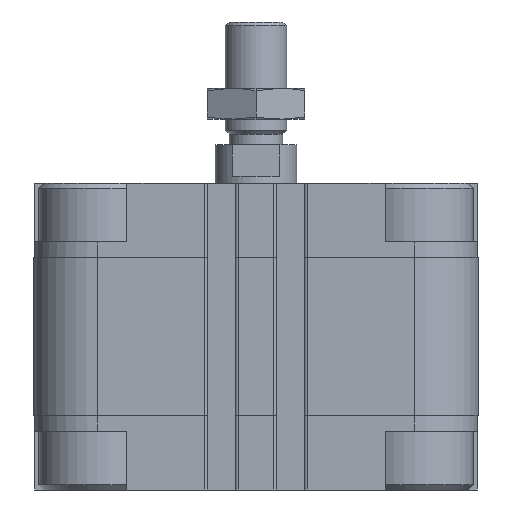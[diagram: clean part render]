
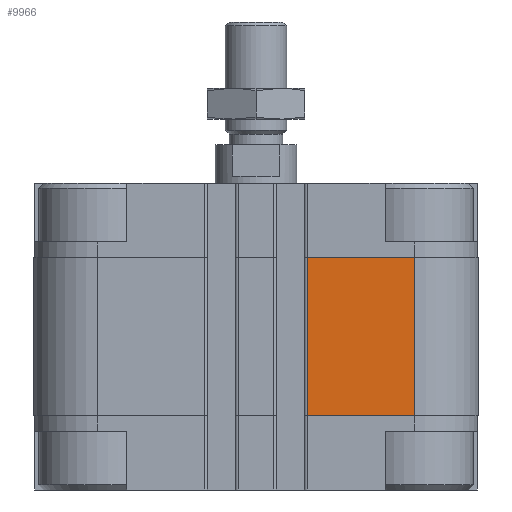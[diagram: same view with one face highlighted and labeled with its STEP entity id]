
A CAD part, front view. The second image highlights one B-rep face of the part: STEP entity #9966.
In plain terms, the highlighted planar face has unit normal (0, -1, 0).
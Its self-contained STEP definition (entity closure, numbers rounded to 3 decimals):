
#1314 = EDGE_CURVE ( 'NONE', #17527, #6245, #8262, .T. ) ;
#2724 = LINE ( 'NONE', #18692, #14319 ) ;
#3038 = PLANE ( 'NONE',  #12194 ) ;
#3648 = EDGE_CURVE ( 'NONE', #6348, #6245, #2724, .T. ) ;
#3700 = DIRECTION ( 'NONE',  ( 0., 0., 1. ) ) ;
#4712 = ORIENTED_EDGE ( 'NONE', *, *, #3648, .F. ) ;
#5745 = CARTESIAN_POINT ( 'NONE',  ( 10.05, -43.5, -45.5 ) ) ;
#6176 = CARTESIAN_POINT ( 'NONE',  ( 10.05, -43.5, -45.5 ) ) ;
#6245 = VERTEX_POINT ( 'NONE', #12684 ) ;
#6348 = VERTEX_POINT ( 'NONE', #9951 ) ;
#6878 = EDGE_CURVE ( 'NONE', #10626, #6348, #10899, .T. ) ;
#7609 = EDGE_CURVE ( 'NONE', #10626, #17527, #13788, .T. ) ;
#8262 = LINE ( 'NONE', #17576, #13463 ) ;
#9032 = CARTESIAN_POINT ( 'NONE',  ( 10.05, -43.5, -45.5 ) ) ;
#9214 = DIRECTION ( 'NONE',  ( -1., 0., 0. ) ) ;
#9951 = CARTESIAN_POINT ( 'NONE',  ( 10.05, -43.5, -14.5 ) ) ;
#9955 = CARTESIAN_POINT ( 'NONE',  ( 31., -43.5, -45.5 ) ) ;
#9966 = ADVANCED_FACE ( 'NONE', ( #15196 ), #3038, .T. ) ;
#9967 = ORIENTED_EDGE ( 'NONE', *, *, #1314, .T. ) ;
#10626 = VERTEX_POINT ( 'NONE', #5745 ) ;
#10642 = DIRECTION ( 'NONE',  ( 1., 0., 0. ) ) ;
#10899 = LINE ( 'NONE', #12407, #16345 ) ;
#11900 = ORIENTED_EDGE ( 'NONE', *, *, #6878, .F. ) ;
#12194 = AXIS2_PLACEMENT_3D ( 'NONE', #6176, #15296, #9214 ) ;
#12407 = CARTESIAN_POINT ( 'NONE',  ( 10.05, -43.5, -45.5 ) ) ;
#12684 = CARTESIAN_POINT ( 'NONE',  ( 31., -43.5, -14.5 ) ) ;
#13027 = ORIENTED_EDGE ( 'NONE', *, *, #7609, .T. ) ;
#13463 = VECTOR ( 'NONE', #3700, 1000. ) ;
#13788 = LINE ( 'NONE', #9032, #19449 ) ;
#14021 = DIRECTION ( 'NONE',  ( 1., 0., 0. ) ) ;
#14319 = VECTOR ( 'NONE', #14021, 1000. ) ;
#15196 = FACE_OUTER_BOUND ( 'NONE', #15661, .T. ) ;
#15296 = DIRECTION ( 'NONE',  ( 0., -1., 0. ) ) ;
#15661 = EDGE_LOOP ( 'NONE', ( #4712, #11900, #13027, #9967 ) ) ;
#16345 = VECTOR ( 'NONE', #18698, 1000. ) ;
#17527 = VERTEX_POINT ( 'NONE', #9955 ) ;
#17576 = CARTESIAN_POINT ( 'NONE',  ( 31., -43.5, -45.5 ) ) ;
#18692 = CARTESIAN_POINT ( 'NONE',  ( 10.05, -43.5, -14.5 ) ) ;
#18698 = DIRECTION ( 'NONE',  ( 0., 0., 1. ) ) ;
#19449 = VECTOR ( 'NONE', #10642, 1000. ) ;
